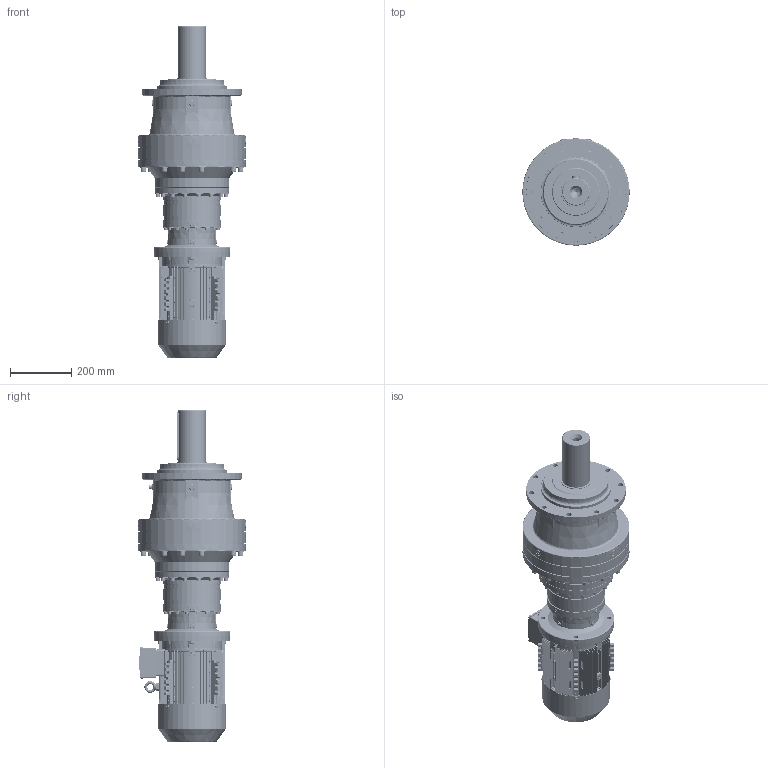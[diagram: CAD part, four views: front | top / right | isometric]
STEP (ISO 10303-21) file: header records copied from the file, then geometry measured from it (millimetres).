
FILE_DESCRIPTION (( 'STEP AP203' ), '1' );
FILE_NAME ('PVL_2304L-112M-4.STEP', '2019-05-10T08:23:10', ( '' ), ( '' ), 'SwSTEP 2.0', 'SolidWorks 2012', '' );
FILE_SCHEMA (( 'CONFIG_CONTROL_DESIGN' ));
Products named in the file (30): PVL_2304L-112M-4; MX3-112_B5; DMX-IE3 112B5 flage; rivets for name plate gb_GB_OTHERRIVETS_TYPE93 2.5X5; DMX-IE3 112  cable glands_1; hexagon flange head tapping screws gb_GB_SQUARE_AND_HEXAGON_TYPE137 ST4.8X9.5 C-N_1; DMX-IE3 112terminal box cover_1; eyebolts gb_GB_FASTENER_SCREWS_FRS M8-N_1; cross recessed pan head screws gb_GB_CROSS_SCREWS_TYPE1 M5X12-12  H type-N_1; plain parallel keys_GB_CONNECTING_PIECE_KEYS_CSK 8X50_1; DMX-IE3 112   fan cover_1; hexagon socket head cap screws gb_GB_FASTENER_SCREWS_HSHCS M8X40-N_1; DMX-IE3 112terminal box base_1; circlips for shaft--type a large gb_GB_CONNECTING_PIECE_RING_RRA 28_1; hexagon nuts grade c gb_GB_FASTENER_NUT_SNC1 M8-N_1; spring lock washers--normal type gb_GB_FASTENER_WASHER_SW 8_1; DMX-IE3 112 fan_1; DMX-IE3 112 shaft_1; DMX-IE3 112M4 casing_1; PNL_2304L_0_0_A11_B5_ML31A_FL7A_0_0_0_0_0_0_0_0_0_0_0_M1; EK2304L_Varsayìlan; ML31A_Varsayìlan; 11112B5_Varsayìlan; FL7A_Varsayìlan; P23_Varsayìlan; DMX-IE3 oil seal_1; deep groove ball bearings gb_Rolling bearings 6206 GB 276-94_1; DMX-IE3 112M4  oil seal_1; DMX-IE3 112 shield_1; deep groove ball bearings gb_Rolling bearings 6306 GB 276-94_1
Assembly tree (59 placements, depth 3):
  PVL_2304L-112M-4
    PNL_2304L_0_0_A11_B5_ML31A_FL7A_0_0_0_0_0_0_0_0_0_0_0_M1
      P23_Varsayìlan
      11112B5_Varsayìlan
      ML31A_Varsayìlan
      EK2304L_Varsayìlan
      FL7A_Varsayìlan
    MX3-112_B5
      DMX-IE3 112M4 casing_1
      DMX-IE3 112 shaft_1
      DMX-IE3 112 shield_1
      deep groove ball bearings gb_Rolling bearings 6306 GB 276-94_1
      deep groove ball bearings gb_Rolling bearings 6206 GB 276-94_1
      DMX-IE3 112M4  oil seal_1
      DMX-IE3 oil seal_1
      DMX-IE3 112 fan_1
      circlips for shaft--type a large gb_GB_CONNECTING_PIECE_RING_RRA 28_1
      spring lock washers--normal type gb_GB_FASTENER_WASHER_SW 8_1  x8
      hexagon nuts grade c gb_GB_FASTENER_NUT_SNC1 M8-N_1  x8
      hexagon socket head cap screws gb_GB_FASTENER_SCREWS_HSHCS M8X40-N_1  x8
      DMX-IE3 112   fan cover_1
      plain parallel keys_GB_CONNECTING_PIECE_KEYS_CSK 8X50_1
      DMX-IE3 112terminal box base_1
      DMX-IE3 112terminal box cover_1
      cross recessed pan head screws gb_GB_CROSS_SCREWS_TYPE1 M5X12-12  H type-N_1  x4
      eyebolts gb_GB_FASTENER_SCREWS_FRS M8-N_1
      hexagon flange head tapping screws gb_GB_SQUARE_AND_HEXAGON_TYPE137 ST4.8X9.5 C-N_1  x5
      DMX-IE3 112  cable glands_1  x2
      DMX-IE3 112B5 flage
      rivets for name plate gb_GB_OTHERRIVETS_TYPE93 2.5X5  x2
Bounding box: 350 x 350 x 1085.35 mm (x, y, z)
Volume: 31849952.2 mm3; surface area: 2744261 mm2
Topology: 65 solids, 71 shells, 9993 faces, 25562 edges, 15584 vertices
Faces by surface type: plane 3414, cylinder 2848, bspline 2055, cone 1282, torus 264, sphere 130
Entity records: 358627 total; most frequent: CARTESIAN_POINT 140315, ORIENTED_EDGE 47410, DIRECTION 42287, EDGE_CURVE 23708, AXIS2_PLACEMENT_3D 16014, VERTEX_POINT 14617, VECTOR 10259, LINE 10259
